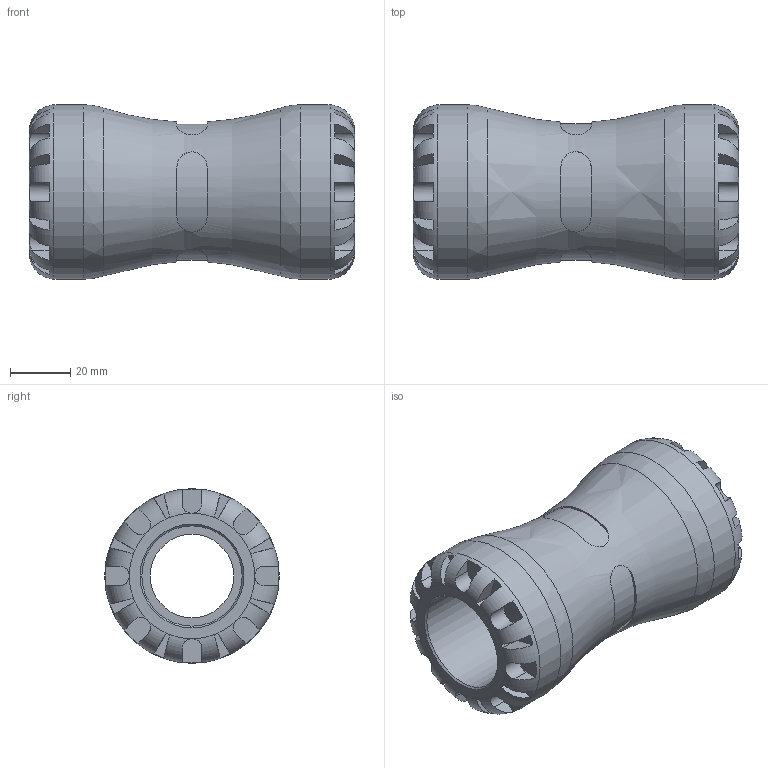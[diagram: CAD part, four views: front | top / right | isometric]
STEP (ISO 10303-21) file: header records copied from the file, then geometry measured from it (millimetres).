
FILE_DESCRIPTION(/* description */ ('PLASSON COUPLER 1''''IPS x 1''''IPS SERIES 1'),/* implementation_level */ '2;1');
FILE_NAME(/* name */ 'C:\Dropbox\KIMPROJECTS-Inventor 2019\99-16-3568-Processing Inch\ASTM S1 2021\1001A\1001A6010.ipt.stp',/* time_stamp */ '2021-09-02T11:59:58+03:00',/* author */ ('KIM'),/* organization */ (''),/* preprocessor_version */ 'ST-DEVELOPER v17.2',/* originating_system */ 'Autodesk Inventor 2019',/* authorisation */ '');
FILE_SCHEMA (('AUTOMOTIVE_DESIGN { 1 0 10303 214 3 1 1 }'));
Length unit declared in the file: inch
Products named in the file (1): 1001A6010
Bounding box: 107.95 x 57.91 x 57.91 mm (x, y, z)
Volume: 137646.3 mm3; surface area: 34858.6 mm2
Topology: 1 solids, 1 shells, 164 faces, 431 edges, 274 vertices
Faces by surface type: plane 108, cylinder 49, torus 3, cone 2, bspline 2
Full cylindrical faces by diameter (mm): 27.75 x1, 33.3 x2, 57.912 x2
Entity records: 6689 total; most frequent: CARTESIAN_POINT 2510, ORIENTED_EDGE 862, DIRECTION 813, EDGE_CURVE 431, AXIS2_PLACEMENT_3D 331, VERTEX_POINT 274, EDGE_LOOP 171, CIRCLE 168
